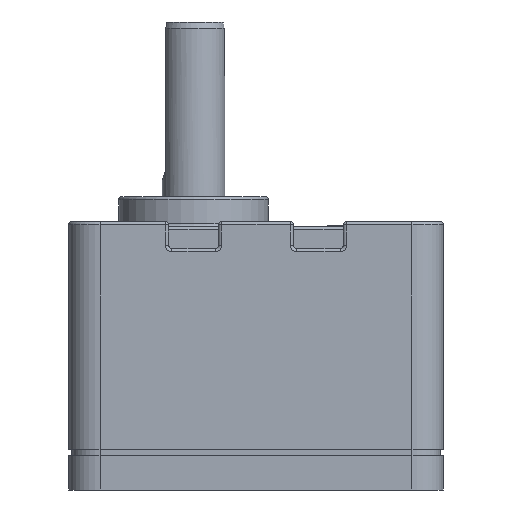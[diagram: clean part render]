
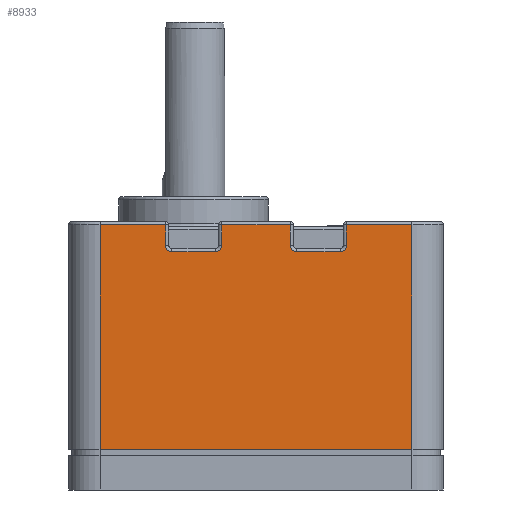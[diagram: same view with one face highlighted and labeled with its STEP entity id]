
A CAD part, left-side view. The second image highlights one B-rep face of the part: STEP entity #8933.
In plain terms, the highlighted planar face has unit normal (-1, 0, 0).
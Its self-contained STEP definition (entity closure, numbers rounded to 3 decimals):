
#8589=CARTESIAN_POINT('',(-30.,-25.,42.5));
#8590=VERTEX_POINT('',#8589);
#8599=CARTESIAN_POINT('',(-30.,-14.5,42.5));
#8600=VERTEX_POINT('',#8599);
#8608=CARTESIAN_POINT('',(-30.,-14.5,42.5));
#8609=DIRECTION('',(0.0,-1.0,0.0));
#8610=VECTOR('',#8609,10.5);
#8611=LINE('',#8608,#8610);
#8612=EDGE_CURVE('',#8600,#8590,#8611,.T.);
#8803=CARTESIAN_POINT('',(-30.,30.,43.));
#8804=DIRECTION('',(-1.0,0.0,0.0));
#8805=DIRECTION('',(0.0,0.0,-1.0));
#8806=AXIS2_PLACEMENT_3D('',#8803,#8804,#8805);
#8807=PLANE('',#8806);
#8808=ORIENTED_EDGE('',*,*,#8612,.F.);
#8809=CARTESIAN_POINT('',(-30.,-14.5,39.2));
#8810=VERTEX_POINT('',#8809);
#8811=CARTESIAN_POINT('',(-30.,-14.5,39.2));
#8812=DIRECTION('',(0.0,0.0,1.0));
#8813=VECTOR('',#8812,3.3);
#8814=LINE('',#8811,#8813);
#8815=EDGE_CURVE('',#8810,#8600,#8814,.T.);
#8816=ORIENTED_EDGE('',*,*,#8815,.F.);
#8817=CARTESIAN_POINT('',(-30.,-13.5,38.2));
#8818=VERTEX_POINT('',#8817);
#8819=CARTESIAN_POINT('',(-30.,-13.5,39.2));
#8820=DIRECTION('',(-1.0,0.,0.));
#8821=DIRECTION('',(0.,-0.707,-0.707));
#8822=AXIS2_PLACEMENT_3D('',#8819,#8820,#8821);
#8823=CIRCLE('',#8822,1.0);
#8824=EDGE_CURVE('',#8818,#8810,#8823,.T.);
#8825=ORIENTED_EDGE('',*,*,#8824,.F.);
#8826=CARTESIAN_POINT('',(-30.,-6.5,38.2));
#8827=VERTEX_POINT('',#8826);
#8828=CARTESIAN_POINT('',(-30.,-6.5,38.2));
#8829=DIRECTION('',(0.0,-1.0,0.0));
#8830=VECTOR('',#8829,7.);
#8831=LINE('',#8828,#8830);
#8832=EDGE_CURVE('',#8827,#8818,#8831,.T.);
#8833=ORIENTED_EDGE('',*,*,#8832,.F.);
#8834=CARTESIAN_POINT('',(-30.,-5.5,39.2));
#8835=VERTEX_POINT('',#8834);
#8836=CARTESIAN_POINT('',(-30.,-6.5,39.2));
#8837=DIRECTION('',(-1.,0.,0.));
#8838=DIRECTION('',(0.,0.707,-0.707));
#8839=AXIS2_PLACEMENT_3D('',#8836,#8837,#8838);
#8840=CIRCLE('',#8839,1.);
#8841=EDGE_CURVE('',#8835,#8827,#8840,.T.);
#8842=ORIENTED_EDGE('',*,*,#8841,.F.);
#8843=CARTESIAN_POINT('',(-30.,-5.5,42.5));
#8844=VERTEX_POINT('',#8843);
#8845=CARTESIAN_POINT('',(-30.,-5.5,42.5));
#8846=DIRECTION('',(0.0,0.0,-1.0));
#8847=VECTOR('',#8846,3.3);
#8848=LINE('',#8845,#8847);
#8849=EDGE_CURVE('',#8844,#8835,#8848,.T.);
#8850=ORIENTED_EDGE('',*,*,#8849,.F.);
#8851=CARTESIAN_POINT('',(-30.0,5.5,42.5));
#8852=VERTEX_POINT('',#8851);
#8853=CARTESIAN_POINT('',(-30.,5.5,42.5));
#8854=DIRECTION('',(0.0,-1.0,0.0));
#8855=VECTOR('',#8854,11.);
#8856=LINE('',#8853,#8855);
#8857=EDGE_CURVE('',#8852,#8844,#8856,.T.);
#8858=ORIENTED_EDGE('',*,*,#8857,.F.);
#8859=CARTESIAN_POINT('',(-30.,5.5,39.2));
#8860=VERTEX_POINT('',#8859);
#8861=CARTESIAN_POINT('',(-30.,5.5,39.2));
#8862=DIRECTION('',(0.0,0.0,1.0));
#8863=VECTOR('',#8862,3.3);
#8864=LINE('',#8861,#8863);
#8865=EDGE_CURVE('',#8860,#8852,#8864,.T.);
#8866=ORIENTED_EDGE('',*,*,#8865,.F.);
#8867=CARTESIAN_POINT('',(-30.,6.5,38.2));
#8868=VERTEX_POINT('',#8867);
#8869=CARTESIAN_POINT('',(-30.,6.5,39.2));
#8870=DIRECTION('',(-1.,0.,0.));
#8871=DIRECTION('',(0.,-0.707,-0.707));
#8872=AXIS2_PLACEMENT_3D('',#8869,#8870,#8871);
#8873=CIRCLE('',#8872,1.);
#8874=EDGE_CURVE('',#8868,#8860,#8873,.T.);
#8875=ORIENTED_EDGE('',*,*,#8874,.F.);
#8876=CARTESIAN_POINT('',(-30.,13.5,38.2));
#8877=VERTEX_POINT('',#8876);
#8878=CARTESIAN_POINT('',(-30.,13.5,38.2));
#8879=DIRECTION('',(0.0,-1.0,0.0));
#8880=VECTOR('',#8879,7.);
#8881=LINE('',#8878,#8880);
#8882=EDGE_CURVE('',#8877,#8868,#8881,.T.);
#8883=ORIENTED_EDGE('',*,*,#8882,.F.);
#8884=CARTESIAN_POINT('',(-30.,14.5,39.2));
#8885=VERTEX_POINT('',#8884);
#8886=CARTESIAN_POINT('',(-30.,13.5,39.2));
#8887=DIRECTION('',(-1.0,0.,0.));
#8888=DIRECTION('',(0.,0.707,-0.707));
#8889=AXIS2_PLACEMENT_3D('',#8886,#8887,#8888);
#8890=CIRCLE('',#8889,1.0);
#8891=EDGE_CURVE('',#8885,#8877,#8890,.T.);
#8892=ORIENTED_EDGE('',*,*,#8891,.F.);
#8893=CARTESIAN_POINT('',(-30.,14.5,42.5));
#8894=VERTEX_POINT('',#8893);
#8895=CARTESIAN_POINT('',(-30.,14.5,42.5));
#8896=DIRECTION('',(0.0,0.0,-1.0));
#8897=VECTOR('',#8896,3.3);
#8898=LINE('',#8895,#8897);
#8899=EDGE_CURVE('',#8894,#8885,#8898,.T.);
#8900=ORIENTED_EDGE('',*,*,#8899,.F.);
#8901=CARTESIAN_POINT('',(-30.,25.,42.5));
#8902=VERTEX_POINT('',#8901);
#8903=CARTESIAN_POINT('',(-30.,25.,42.5));
#8904=DIRECTION('',(0.0,-1.0,0.0));
#8905=VECTOR('',#8904,10.5);
#8906=LINE('',#8903,#8905);
#8907=EDGE_CURVE('',#8902,#8894,#8906,.T.);
#8908=ORIENTED_EDGE('',*,*,#8907,.F.);
#8909=CARTESIAN_POINT('',(-30.,25.,6.5));
#8910=VERTEX_POINT('',#8909);
#8911=CARTESIAN_POINT('',(-30.,25.,6.5));
#8912=DIRECTION('',(0.0,0.0,1.0));
#8913=VECTOR('',#8912,36.0);
#8914=LINE('',#8911,#8913);
#8915=EDGE_CURVE('',#8910,#8902,#8914,.T.);
#8916=ORIENTED_EDGE('',*,*,#8915,.F.);
#8917=CARTESIAN_POINT('',(-30.,-25.,6.5));
#8918=VERTEX_POINT('',#8917);
#8919=CARTESIAN_POINT('',(-30.,25.,6.5));
#8920=DIRECTION('',(0.0,-1.0,0.0));
#8921=VECTOR('',#8920,50.);
#8922=LINE('',#8919,#8921);
#8923=EDGE_CURVE('',#8910,#8918,#8922,.T.);
#8924=ORIENTED_EDGE('',*,*,#8923,.T.);
#8925=CARTESIAN_POINT('',(-30.,-25.,42.5));
#8926=DIRECTION('',(0.0,0.0,-1.0));
#8927=VECTOR('',#8926,36.0);
#8928=LINE('',#8925,#8927);
#8929=EDGE_CURVE('',#8590,#8918,#8928,.T.);
#8930=ORIENTED_EDGE('',*,*,#8929,.F.);
#8931=EDGE_LOOP('',(#8808,#8816,#8825,#8833,#8842,#8850,#8858,#8866,#8875,#8883,#8892,#8900,#8908,#8916,#8924,#8930));
#8932=FACE_OUTER_BOUND('',#8931,.T.);
#8933=ADVANCED_FACE('',(#8932),#8807,.T.);
